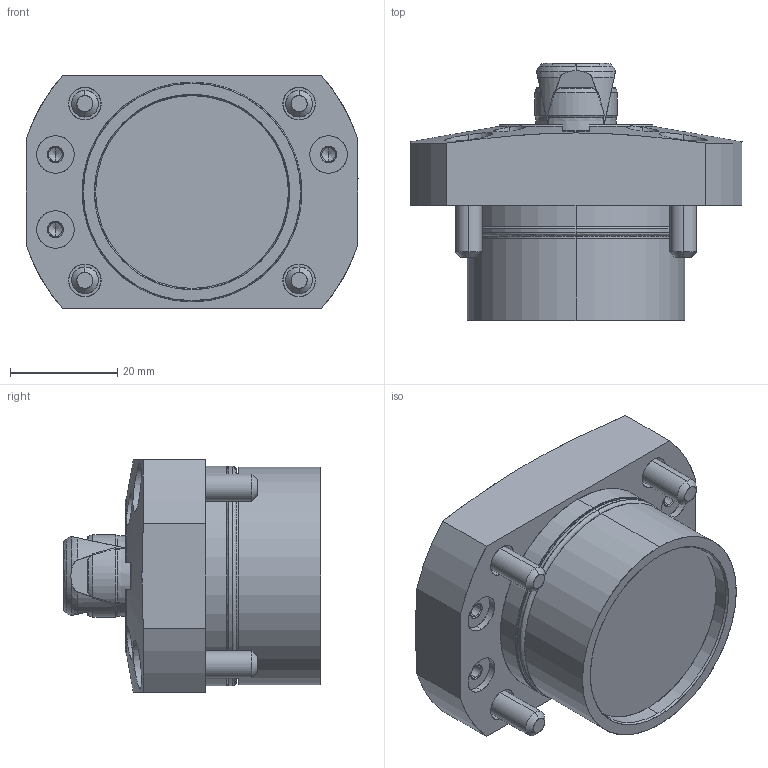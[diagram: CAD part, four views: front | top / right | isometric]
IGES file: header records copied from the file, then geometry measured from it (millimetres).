
Start section: SolidWorks IGES file using analytic representation for surfaces
Global section: file name: L:\電子カタログ-3Ｄ\SFH\ｱｾﾝﾌﾞﾘ\SFH2160_N.IGS; native system: SolidWorks 2010; preprocessor: SolidWorks 2010; author: D214; date: 101104.082027; units: millimetre
Bounding box: 62 x 48 x 43.5 mm (x, y, z)
Surface area: 22110.4 mm2 (no closed solid volume)
Topology: 0 solids, 0 shells, 478 faces, 6251 edges, 6227 vertices
Faces by surface type: revolution 272, bspline 206
